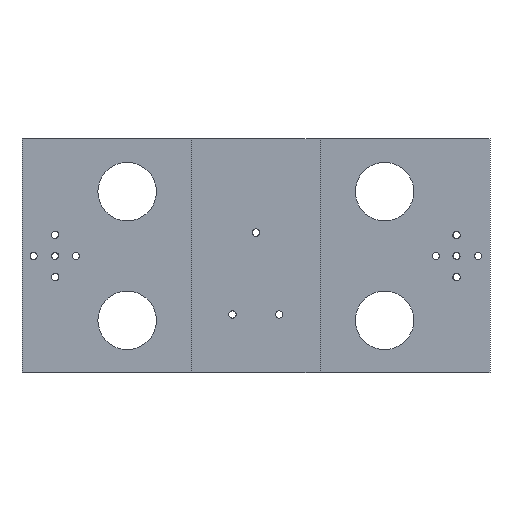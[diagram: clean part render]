
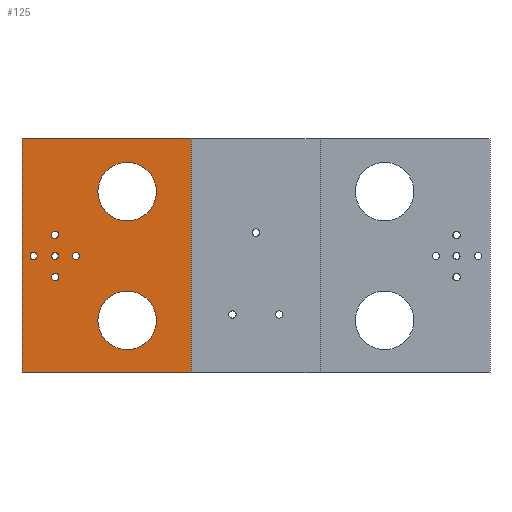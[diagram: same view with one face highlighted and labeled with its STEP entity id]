
A CAD part, front view. The second image highlights one B-rep face of the part: STEP entity #125.
In plain terms, the highlighted planar face has unit normal (0, -1, 0).
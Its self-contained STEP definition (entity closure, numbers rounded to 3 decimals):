
#125 = ADVANCED_FACE( '', ( #292, #293, #294, #295, #296, #297, #298, #299 ), #300, .T. );
#292 = FACE_BOUND( '', #467, .T. );
#293 = FACE_BOUND( '', #468, .T. );
#294 = FACE_BOUND( '', #469, .T. );
#295 = FACE_BOUND( '', #470, .T. );
#296 = FACE_BOUND( '', #471, .T. );
#297 = FACE_BOUND( '', #472, .T. );
#298 = FACE_BOUND( '', #473, .T. );
#299 = FACE_OUTER_BOUND( '', #474, .T. );
#300 = PLANE( '', #475 );
#467 = EDGE_LOOP( '', ( #749 ) );
#468 = EDGE_LOOP( '', ( #750 ) );
#469 = EDGE_LOOP( '', ( #751 ) );
#470 = EDGE_LOOP( '', ( #752 ) );
#471 = EDGE_LOOP( '', ( #753 ) );
#472 = EDGE_LOOP( '', ( #754 ) );
#473 = EDGE_LOOP( '', ( #755 ) );
#474 = EDGE_LOOP( '', ( #756, #757, #758, #759 ) );
#475 = AXIS2_PLACEMENT_3D( '', #760, #761, #762 );
#749 = ORIENTED_EDGE( '', *, *, #834, .T. );
#750 = ORIENTED_EDGE( '', *, *, #826, .T. );
#751 = ORIENTED_EDGE( '', *, *, #849, .F. );
#752 = ORIENTED_EDGE( '', *, *, #918, .F. );
#753 = ORIENTED_EDGE( '', *, *, #846, .F. );
#754 = ORIENTED_EDGE( '', *, *, #906, .F. );
#755 = ORIENTED_EDGE( '', *, *, #857, .F. );
#756 = ORIENTED_EDGE( '', *, *, #831, .F. );
#757 = ORIENTED_EDGE( '', *, *, #913, .T. );
#758 = ORIENTED_EDGE( '', *, *, #919, .T. );
#759 = ORIENTED_EDGE( '', *, *, #920, .T. );
#760 = CARTESIAN_POINT( '', ( 0., -2.5, 0. ) );
#761 = DIRECTION( '', ( 0., -1., 0. ) );
#762 = DIRECTION( '', ( 0., 0., -1. ) );
#826 = EDGE_CURVE( '', #953, #953, #954, .F. );
#831 = EDGE_CURVE( '', #961, #957, #963, .T. );
#834 = EDGE_CURVE( '', #967, #967, #968, .F. );
#846 = EDGE_CURVE( '', #987, #987, #988, .T. );
#849 = EDGE_CURVE( '', #992, #992, #993, .T. );
#857 = EDGE_CURVE( '', #1005, #1005, #1006, .T. );
#906 = EDGE_CURVE( '', #1077, #1077, #1078, .T. );
#913 = EDGE_CURVE( '', #961, #1084, #1086, .T. );
#918 = EDGE_CURVE( '', #1091, #1091, #1092, .T. );
#919 = EDGE_CURVE( '', #1084, #1093, #1094, .T. );
#920 = EDGE_CURVE( '', #1093, #957, #1095, .T. );
#953 = VERTEX_POINT( '', #1132 );
#954 = CIRCLE( '', #1133, 25. );
#957 = VERTEX_POINT( '', #1136 );
#961 = VERTEX_POINT( '', #1142 );
#963 = LINE( '', #1145, #1146 );
#967 = VERTEX_POINT( '', #1150 );
#968 = CIRCLE( '', #1151, 25. );
#987 = VERTEX_POINT( '', #1174 );
#988 = ELLIPSE( '', #1175, 3.224, 3.175 );
#992 = VERTEX_POINT( '', #1179 );
#993 = CIRCLE( '', #1180, 3. );
#1005 = VERTEX_POINT( '', #1192 );
#1006 = ELLIPSE( '', #1193, 3.046, 3. );
#1077 = VERTEX_POINT( '', #1288 );
#1078 = ELLIPSE( '', #1289, 3.224, 3.175 );
#1084 = VERTEX_POINT( '', #1297 );
#1086 = LINE( '', #1300, #1301 );
#1091 = VERTEX_POINT( '', #1306 );
#1092 = CIRCLE( '', #1307, 3. );
#1093 = VERTEX_POINT( '', #1308 );
#1094 = LINE( '', #1309, #1310 );
#1095 = LINE( '', #1311, #1312 );
#1132 = CARTESIAN_POINT( '', ( 89.87, -2.5, 20. ) );
#1133 = AXIS2_PLACEMENT_3D( '', #1346, #1347, #1348 );
#1136 = CARTESIAN_POINT( '', ( 144.594, -2.5, 0. ) );
#1142 = CARTESIAN_POINT( '', ( 144.594, -2.5, 200. ) );
#1145 = CARTESIAN_POINT( '', ( 144.594, -2.5, 200. ) );
#1146 = VECTOR( '', #1352, 1000. );
#1150 = CARTESIAN_POINT( '', ( 89.87, -2.5, 130. ) );
#1151 = AXIS2_PLACEMENT_3D( '', #1356, #1357, #1358 );
#1174 = CARTESIAN_POINT( '', ( 31.617, -2.5, 118. ) );
#1175 = AXIS2_PLACEMENT_3D( '', #1372, #1373, #1374 );
#1179 = CARTESIAN_POINT( '', ( 12.952, -2.5, 100. ) );
#1180 = AXIS2_PLACEMENT_3D( '', #1378, #1379, #1380 );
#1192 = CARTESIAN_POINT( '', ( 25.347, -2.5, 100. ) );
#1193 = AXIS2_PLACEMENT_3D( '', #1393, #1394, #1395 );
#1288 = CARTESIAN_POINT( '', ( 31.617, -2.5, 82. ) );
#1289 = AXIS2_PLACEMENT_3D( '', #1456, #1457, #1458 );
#1297 = CARTESIAN_POINT( '', ( 0., -2.5, 200. ) );
#1300 = CARTESIAN_POINT( '', ( 400., -2.5, 200. ) );
#1301 = VECTOR( '', #1462, 1000. );
#1306 = CARTESIAN_POINT( '', ( 48.952, -2.5, 100. ) );
#1307 = AXIS2_PLACEMENT_3D( '', #1463, #1464, #1465 );
#1308 = CARTESIAN_POINT( '', ( 0., -2.5, 0. ) );
#1309 = CARTESIAN_POINT( '', ( 0., -2.5, 200. ) );
#1310 = VECTOR( '', #1466, 1000. );
#1311 = CARTESIAN_POINT( '', ( 0., -2.5, 0. ) );
#1312 = VECTOR( '', #1467, 1000. );
#1346 = CARTESIAN_POINT( '', ( 89.87, -2.5, 45. ) );
#1347 = DIRECTION( '', ( 0., -1., 0. ) );
#1348 = DIRECTION( '', ( 0., 0., -1. ) );
#1352 = DIRECTION( '', ( 0., 0., -1. ) );
#1356 = CARTESIAN_POINT( '', ( 89.87, -2.5, 155. ) );
#1357 = DIRECTION( '', ( 0., -1., 0. ) );
#1358 = DIRECTION( '', ( 0., 0., -1. ) );
#1372 = CARTESIAN_POINT( '', ( 28.393, -2.5, 118. ) );
#1373 = DIRECTION( '', ( 0., -1., 0. ) );
#1374 = DIRECTION( '', ( 1., 0., 0. ) );
#1378 = CARTESIAN_POINT( '', ( 9.952, -2.5, 100. ) );
#1379 = DIRECTION( '', ( 0., -1., 0. ) );
#1380 = DIRECTION( '', ( 1., 0., 0. ) );
#1393 = CARTESIAN_POINT( '', ( 28.393, -2.5, 100. ) );
#1394 = DIRECTION( '', ( 0., -1., 0. ) );
#1395 = DIRECTION( '', ( -1., 0., 0. ) );
#1456 = CARTESIAN_POINT( '', ( 28.393, -2.5, 82. ) );
#1457 = DIRECTION( '', ( 0., -1., 0. ) );
#1458 = DIRECTION( '', ( 1., 0., 0. ) );
#1462 = DIRECTION( '', ( -1., 0., 0. ) );
#1463 = CARTESIAN_POINT( '', ( 45.952, -2.5, 100. ) );
#1464 = DIRECTION( '', ( 0., -1., 0. ) );
#1465 = DIRECTION( '', ( 1., 0., 0. ) );
#1466 = DIRECTION( '', ( 0., 0., -1. ) );
#1467 = DIRECTION( '', ( 1., 0., 0. ) );
